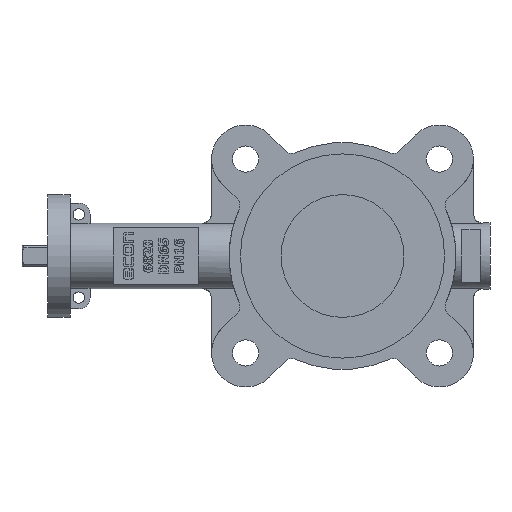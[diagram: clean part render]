
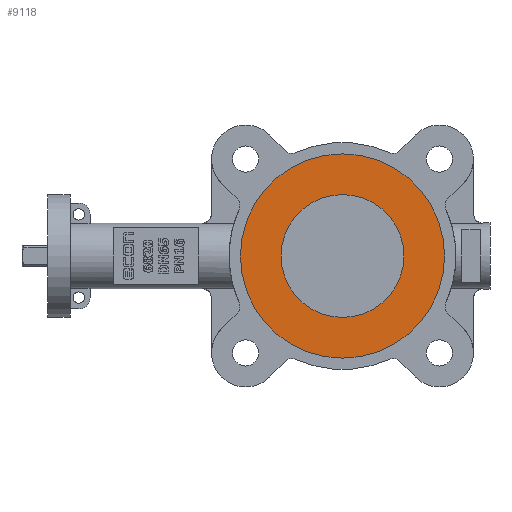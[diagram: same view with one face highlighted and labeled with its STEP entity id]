
A CAD part, left-side view. The second image highlights one B-rep face of the part: STEP entity #9118.
In plain terms, the highlighted planar face has unit normal (-1, 0, 0).
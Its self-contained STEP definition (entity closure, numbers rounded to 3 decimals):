
#218=FACE_BOUND('',#1746,.T.);
#470=PLANE('',#9662);
#1221=FACE_OUTER_BOUND('',#1745,.T.);
#1745=EDGE_LOOP('',(#8108));
#1746=EDGE_LOOP('',(#8109));
#3497=CIRCLE('',#9657,32.5);
#3499=CIRCLE('',#9663,54.);
#4333=VERTEX_POINT('',#16459);
#4335=VERTEX_POINT('',#16469);
#5590=EDGE_CURVE('',#4333,#4333,#3497,.T.);
#5594=EDGE_CURVE('',#4335,#4335,#3499,.T.);
#8108=ORIENTED_EDGE('',*,*,#5594,.T.);
#8109=ORIENTED_EDGE('',*,*,#5590,.T.);
#9118=ADVANCED_FACE('',(#1221,#218),#470,.F.);
#9657=AXIS2_PLACEMENT_3D('',#16460,#11471,#11472);
#9662=AXIS2_PLACEMENT_3D('',#16468,#11483,#11484);
#9663=AXIS2_PLACEMENT_3D('',#16470,#11485,#11486);
#11471=DIRECTION('center_axis',(1.,0.,0.));
#11472=DIRECTION('ref_axis',(0.,0.,-1.));
#11483=DIRECTION('center_axis',(1.,0.,0.));
#11484=DIRECTION('ref_axis',(0.,0.,-1.));
#11485=DIRECTION('center_axis',(-1.,0.,0.));
#11486=DIRECTION('ref_axis',(0.,-1.,0.));
#16459=CARTESIAN_POINT('',(-31.962,-47.738,32.5));
#16460=CARTESIAN_POINT('Origin',(-31.962,-47.738,0.));
#16468=CARTESIAN_POINT('Origin',(-31.962,-47.738,0.));
#16469=CARTESIAN_POINT('',(-31.962,6.262,0.));
#16470=CARTESIAN_POINT('Origin',(-31.962,-47.738,0.));
